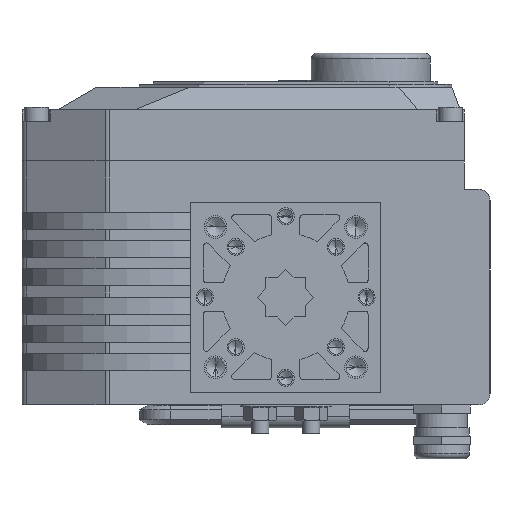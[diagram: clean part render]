
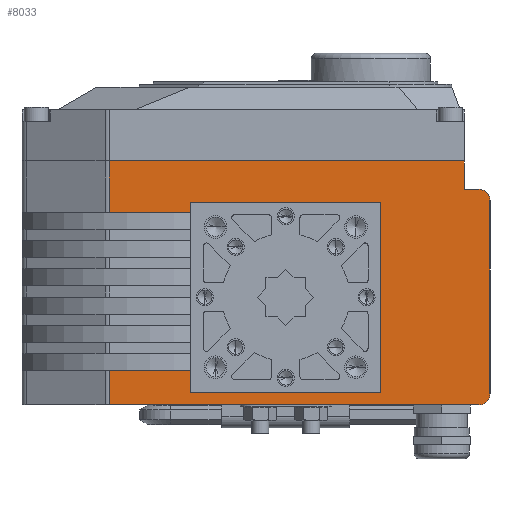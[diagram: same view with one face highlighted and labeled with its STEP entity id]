
A CAD part, front view. The second image highlights one B-rep face of the part: STEP entity #8033.
In plain terms, the highlighted planar face has unit normal (0, -1, 0).
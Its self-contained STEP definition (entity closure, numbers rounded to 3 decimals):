
#2780=DIRECTION('',(1.,0.,0.));
#2781=VECTOR('',#2780,130.189);
#2782=CARTESIAN_POINT('',(-56.,-37.5,0.));
#2783=LINE('',#2782,#2781);
#3445=DIRECTION('',(0.,0.,-1.));
#3446=VECTOR('',#3445,67.);
#3447=CARTESIAN_POINT('',(-21.5,-37.5,-4.5));
#3448=LINE('',#3447,#3446);
#3449=DIRECTION('',(1.,0.,0.));
#3450=VECTOR('',#3449,67.);
#3451=CARTESIAN_POINT('',(-21.5,-37.5,-71.5));
#3452=LINE('',#3451,#3450);
#3453=DIRECTION('',(0.,0.,1.));
#3454=VECTOR('',#3453,3.5);
#3455=CARTESIAN_POINT('',(45.5,-37.5,-71.5));
#3456=LINE('',#3455,#3454);
#3457=DIRECTION('',(-1.,0.,0.));
#3458=VECTOR('',#3457,28.689);
#3459=CARTESIAN_POINT('',(74.189,-37.5,-68.));
#3460=LINE('',#3459,#3458);
#3461=DIRECTION('',(0.,0.,1.));
#3462=VECTOR('',#3461,18.);
#3463=CARTESIAN_POINT('',(74.189,-37.5,-86.));
#3464=LINE('',#3463,#3462);
#3465=CARTESIAN_POINT('',(-56.,-37.5,-72.));
#3466=DIRECTION('',(0.,-1.,0.));
#3467=DIRECTION('',(-1.,0.,0.));
#3468=AXIS2_PLACEMENT_3D('',#3465,#3466,#3467);
#3470=DIRECTION('',(0.,0.,-1.));
#3471=VECTOR('',#3470,68.);
#3472=CARTESIAN_POINT('',(-60.,-37.5,-4.));
#3473=LINE('',#3472,#3471);
#3474=CARTESIAN_POINT('',(-56.,-37.5,-4.));
#3475=DIRECTION('',(0.,-1.,0.));
#3476=DIRECTION('',(0.,0.,1.));
#3477=AXIS2_PLACEMENT_3D('',#3474,#3475,#3476);
#3479=DIRECTION('',(0.,0.,1.));
#3480=VECTOR('',#3479,12.);
#3481=CARTESIAN_POINT('',(74.189,-37.5,-12.));
#3482=LINE('',#3481,#3480);
#3483=DIRECTION('',(-1.,0.,0.));
#3484=VECTOR('',#3483,28.689);
#3485=CARTESIAN_POINT('',(74.189,-37.5,-12.));
#3486=LINE('',#3485,#3484);
#3487=DIRECTION('',(0.,0.,1.));
#3488=VECTOR('',#3487,7.5);
#3489=CARTESIAN_POINT('',(45.5,-37.5,-12.));
#3490=LINE('',#3489,#3488);
#3491=DIRECTION('',(-1.,0.,0.));
#3492=VECTOR('',#3491,67.);
#3493=CARTESIAN_POINT('',(45.5,-37.5,-4.5));
#3494=LINE('',#3493,#3492);
#5444=DIRECTION('',(-1.,0.,0.));
#5445=VECTOR('',#5444,125.189);
#5446=CARTESIAN_POINT('',(74.189,-37.5,-86.));
#5447=LINE('',#5446,#5445);
#5475=DIRECTION('',(0.,0.,-1.));
#5476=VECTOR('',#5475,10.);
#5477=CARTESIAN_POINT('',(-51.,-37.5,-76.));
#5478=LINE('',#5477,#5476);
#5479=DIRECTION('',(1.,0.,0.));
#5480=VECTOR('',#5479,5.);
#5481=CARTESIAN_POINT('',(-56.,-37.5,-76.));
#5482=LINE('',#5481,#5480);
#6204=CARTESIAN_POINT('',(-51.,-37.5,-86.));
#6206=VERTEX_POINT('',#6204);
#6208=CARTESIAN_POINT('',(-51.,-37.5,-76.));
#6210=VERTEX_POINT('',#6208);
#6212=CARTESIAN_POINT('',(-56.,-37.5,0.));
#6213=CARTESIAN_POINT('',(-60.,-37.5,-4.));
#6214=VERTEX_POINT('',#6212);
#6215=VERTEX_POINT('',#6213);
#6224=CARTESIAN_POINT('',(-60.,-37.5,-72.));
#6225=CARTESIAN_POINT('',(-56.,-37.5,-76.));
#6226=VERTEX_POINT('',#6224);
#6227=VERTEX_POINT('',#6225);
#6268=CARTESIAN_POINT('',(74.189,-37.5,0.));
#6270=VERTEX_POINT('',#6268);
#6273=CARTESIAN_POINT('',(74.189,-37.5,-86.));
#6275=VERTEX_POINT('',#6273);
#6428=CARTESIAN_POINT('',(74.189,-37.5,-12.));
#6429=VERTEX_POINT('',#6428);
#6492=CARTESIAN_POINT('',(-21.5,-37.5,-4.5));
#6493=CARTESIAN_POINT('',(-21.5,-37.5,-71.5));
#6494=VERTEX_POINT('',#6492);
#6495=VERTEX_POINT('',#6493);
#6496=CARTESIAN_POINT('',(45.5,-37.5,-71.5));
#6497=VERTEX_POINT('',#6496);
#6498=CARTESIAN_POINT('',(45.5,-37.5,-68.));
#6499=VERTEX_POINT('',#6498);
#6516=CARTESIAN_POINT('',(45.5,-37.5,-4.5));
#6517=VERTEX_POINT('',#6516);
#6518=CARTESIAN_POINT('',(45.5,-37.5,-12.));
#6519=VERTEX_POINT('',#6518);
#7186=CARTESIAN_POINT('',(74.189,-37.5,-68.));
#7187=VERTEX_POINT('',#7186);
#7997=CARTESIAN_POINT('',(-60.,-37.5,0.));
#7998=DIRECTION('',(0.,-1.,0.));
#7999=DIRECTION('',(1.,0.,0.));
#8000=AXIS2_PLACEMENT_3D('',#7997,#7998,#7999);
#8001=PLANE('',#8000);
#8003=ORIENTED_EDGE('',*,*,#8002,.T.);
#8005=ORIENTED_EDGE('',*,*,#8004,.T.);
#8007=ORIENTED_EDGE('',*,*,#8006,.T.);
#8009=ORIENTED_EDGE('',*,*,#8008,.F.);
#8011=ORIENTED_EDGE('',*,*,#8010,.F.);
#8013=ORIENTED_EDGE('',*,*,#8012,.T.);
#8015=ORIENTED_EDGE('',*,*,#8014,.F.);
#8017=ORIENTED_EDGE('',*,*,#8016,.F.);
#8019=ORIENTED_EDGE('',*,*,#8018,.F.);
#8021=ORIENTED_EDGE('',*,*,#8020,.F.);
#8022=ORIENTED_EDGE('',*,*,#7989,.F.);
#8023=ORIENTED_EDGE('',*,*,#7279,.T.);
#8025=ORIENTED_EDGE('',*,*,#8024,.F.);
#8026=ORIENTED_EDGE('',*,*,#7469,.T.);
#8028=ORIENTED_EDGE('',*,*,#8027,.T.);
#8030=ORIENTED_EDGE('',*,*,#8029,.T.);
#8031=EDGE_LOOP('',(#8003,#8005,#8007,#8009,#8011,#8013,#8015,#8017,#8019,#8021,
#8022,#8023,#8025,#8026,#8028,#8030));
#8032=FACE_OUTER_BOUND('',#8031,.F.);
#8033=ADVANCED_FACE('',(#8032),#8001,.T.);
#3469=CIRCLE('',#3468,4.);
#3478=CIRCLE('',#3477,4.);
#7279=EDGE_CURVE('',#6214,#6270,#2783,.T.);
#7469=EDGE_CURVE('',#6429,#6519,#3486,.T.);
#7989=EDGE_CURVE('',#6214,#6215,#3478,.T.);
#8002=EDGE_CURVE('',#6494,#6495,#3448,.T.);
#8004=EDGE_CURVE('',#6495,#6497,#3452,.T.);
#8006=EDGE_CURVE('',#6497,#6499,#3456,.T.);
#8008=EDGE_CURVE('',#7187,#6499,#3460,.T.);
#8010=EDGE_CURVE('',#6275,#7187,#3464,.T.);
#8012=EDGE_CURVE('',#6275,#6206,#5447,.T.);
#8014=EDGE_CURVE('',#6210,#6206,#5478,.T.);
#8016=EDGE_CURVE('',#6227,#6210,#5482,.T.);
#8018=EDGE_CURVE('',#6226,#6227,#3469,.T.);
#8020=EDGE_CURVE('',#6215,#6226,#3473,.T.);
#8024=EDGE_CURVE('',#6429,#6270,#3482,.T.);
#8027=EDGE_CURVE('',#6519,#6517,#3490,.T.);
#8029=EDGE_CURVE('',#6517,#6494,#3494,.T.);
